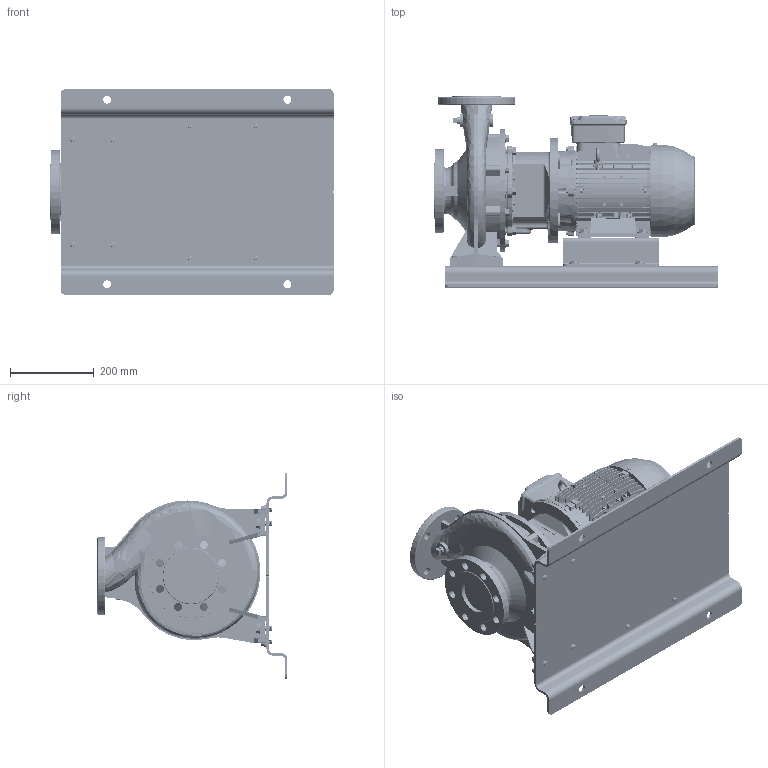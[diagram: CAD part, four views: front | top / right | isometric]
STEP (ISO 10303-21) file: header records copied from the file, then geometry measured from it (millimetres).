
FILE_DESCRIPTION (( 'STEP AP214' ), '1' );
FILE_NAME ('GSD4 65-200_4.0_(112M)_W21_BP.STEP', '2026-05-26T01:19:22', ( '' ), ( '' ), 'SwSTEP 2.0', 'SolidWorks 2024', '' );
FILE_SCHEMA (( 'AUTOMOTIVE_DESIGN' ));
Length unit declared in the file: millimetre
Products named in the file (13): N5S5 GSDA-554 F1-1832917-00; 140_178 x 68 BP - 271472191; Parametric bolt and washer_SFT-A253B; Parametric bolt_SFT-A299B; Parametric bolt_SFT-A249B; 112M ALIE3_W21T_B35; 65-200-112M_ﾃﾞﾌｫﾙﾄ; Parametric bolt and washer_SFT-A299B; Parametric Flat Washer_M10; GSD4 65-200_4.0_(112M)_W21_BP; Parametric bolt and washer_SFT-A249B; Parametric Flat Washer_M12; Parametric bolt_SFT-A253B
Assembly tree (22 placements, depth 3):
  GSD4 65-200_4.0_(112M)_W21_BP
    65-200-112M_ﾃﾞﾌｫﾙﾄ
    112M ALIE3_W21T_B35
    N5S5 GSDA-554 F1-1832917-00
    140_178 x 68 BP - 271472191
    Parametric bolt and washer_SFT-A249B  x4
      Parametric bolt_SFT-A249B
      Parametric Flat Washer_M10
    Parametric bolt and washer_SFT-A253B  x4
      Parametric bolt_SFT-A253B
      Parametric Flat Washer_M10
    Parametric bolt and washer_SFT-A299B  x4
      Parametric bolt_SFT-A299B
      Parametric Flat Washer_M12
Bounding box: 675 x 455 x 490 mm (x, y, z)
Volume: 24345700.7 mm3; surface area: 2525118.6 mm2
Topology: 38 solids, 40 shells, 5398 faces, 14370 edges, 9339 vertices
Faces by surface type: plane 2756, cylinder 1346, bspline 497, cone 414, torus 374, sphere 11
Entity records: 217443 total; most frequent: CARTESIAN_POINT 100800, ORIENTED_EDGE 26128, DIRECTION 21278, EDGE_CURVE 13064, VERTEX_POINT 8499, LINE 7250, VECTOR 7250, AXIS2_PLACEMENT_3D 7014
